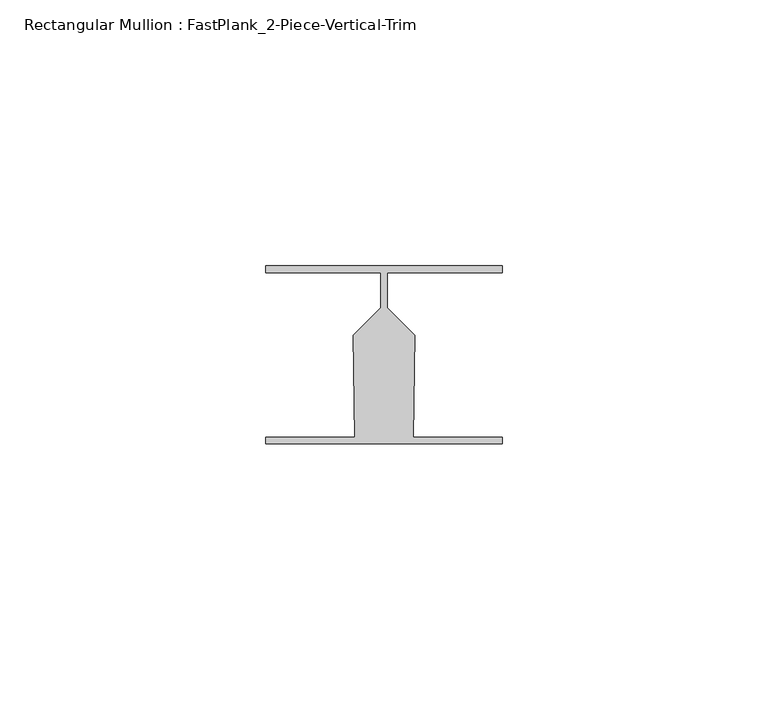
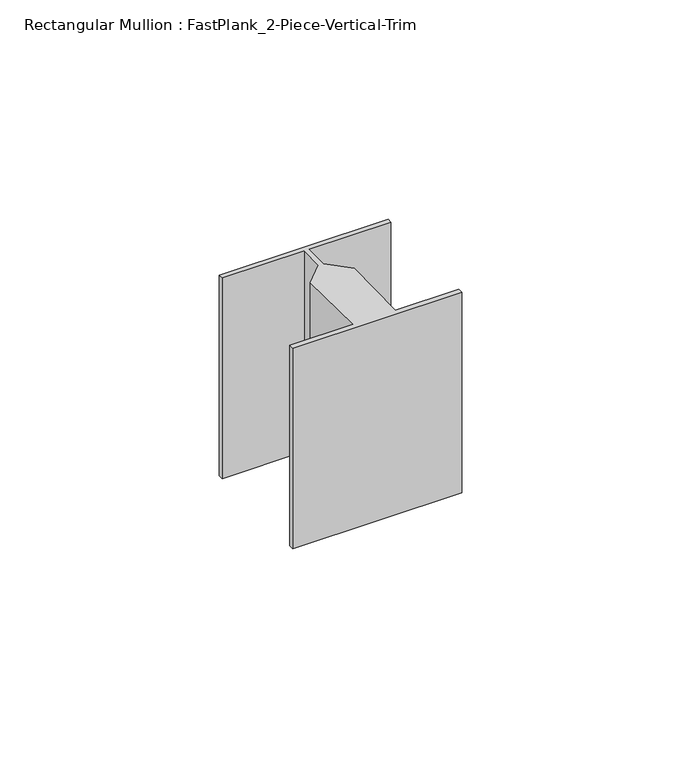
"""IFC4 building model written with IfcOpenShell, lengths in millimetres: member geometry, Rectangular Mullion : FastPlank_2-Piece-Vertical-Trim."""

from ifc_helpers import new_model, si_unit, frame, origin, place, context, project, spatial, polyline, outline, extrude, source, transform, mapped, element, save


def rectangular_mullion_fastplank_2_piece_vertical_trim_8e228b97(model_context):
    return source(origin(), model_context, "Body", "SweptSolid", [
        extrude(outline(polyline([(22.2251761, 11.8625052), (22.2251761, 10.5625078), (0.6499987, 10.5625078), (0.6499987, 3.992521), (5.8241876, -1.1816679), (5.4899028, -20.332833), (22.2251761, -20.332833), (22.2251761, -21.6328304), (-22.2251761, -21.6328304), (-22.2251761, -20.332833), (-5.4899028, -20.332833), (-5.8241876, -1.1816679), (-0.6499987, 3.992521), (-0.6499987, 10.5625078), (-22.2251761, 10.5625078), (-22.2251761, 11.8625052), (22.2251761, 11.8625052)])), frame((0.0, 0.0, -55.8524796), z_axis=(0.0, 0.0, 1.0), x_axis=(1.0, 0.0, 0.0)), (0.0, 0.0, 1.0), 55.8524796),
    ])


if __name__ == "__main__":
    model = new_model("IFC4")
    model_context = context("Model", 3, world=origin())
    ifc_project = project(units=[si_unit("LENGTHUNIT", "METRE", prefix="MILLI")], contexts=[model_context])
    site = spatial("IfcSite", under=ifc_project)
    building = spatial("IfcBuilding", under=site)
    placement = place(None, origin())
    rectangular_mullion_fastplank_2_piece_vertical_trim_shape = rectangular_mullion_fastplank_2_piece_vertical_trim_8e228b97(model_context)
    element("IfcMember", 1, ObjectType="Rectangular Mullion : FastPlank_2-Piece-Vertical-Trim", at=placement, inside=building, context=model_context, shape_type="MappedRepresentation", body=[
        mapped(rectangular_mullion_fastplank_2_piece_vertical_trim_shape, transform((0.0, 0.0, 0.0), x_axis=(1.0, 0.0, 0.0), y_axis=(0.0, 1.0, 0.0), z_axis=(0.0, 0.0, 1.0))),
    ])
    save(model, "model.ifc")
